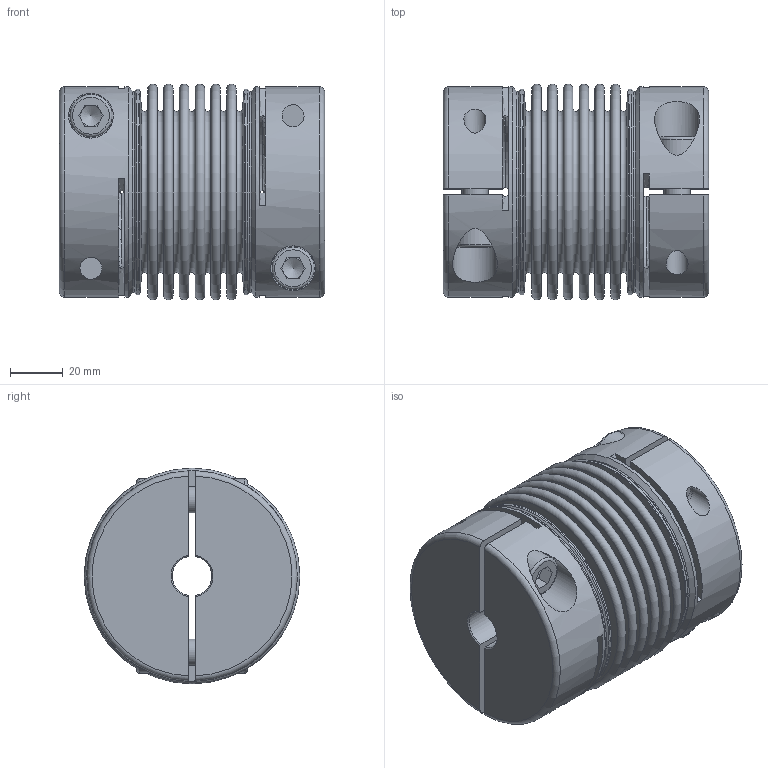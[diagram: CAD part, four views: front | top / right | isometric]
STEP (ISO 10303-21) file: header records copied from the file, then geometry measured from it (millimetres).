
FILE_DESCRIPTION(/* description */ ('Unknown','CAx-IF Rec.Pracs.---Representation and Presentation of Product Manufacturing Information (PMI)---4.0---2014-10-13','CAx-IF Rec.Pracs.---3D Tessellated Geometry---0.4---2014-09-14','2;1'),/* implementation_level */ '2;1');
FILE_NAME(/* name */ 'KG-HS 220-6W',/* time_stamp */ '2022-11-25T11:50:32+01:00',/* author */ ('Unknown'),/* organization */ ('Unknown'),/* preprocessor_version */ 'ST-DEVELOPER v18.102',/* originating_system */ 'Solid Edge',/* authorisation */ 'Unknown');
FILE_SCHEMA (('AP242_MANAGED_MODEL_BASED_3D_ENGINEERING_MIM_LF { 1 0 10303 442 1 1 4 }'));
Length unit declared in the file: millimetre
Products named in the file (1): 04824570
Bounding box: 100.85 x 82 x 82 mm (x, y, z)
Volume: 247866.4 mm3; surface area: 129504.2 mm2
Topology: 1 solids, 1 shells, 218 faces, 494 edges, 318 vertices
Faces by surface type: plane 114, cylinder 42, torus 42, cone 20
Full cylindrical faces by diameter (mm): 8.376 x8, 10 x4, 10.5 x4, 16 x4, 17 x4, 77.6 x2, 78 x2, 80 x2
Entity records: 7771 total; most frequent: CARTESIAN_POINT 1690, DIRECTION 976, ORIENTED_EDGE 784, AXIS2_PLACEMENT_3D 416, EDGE_CURVE 392, FACE_BOUND 348, EDGE_LOOP 344, VERTEX_POINT 296
